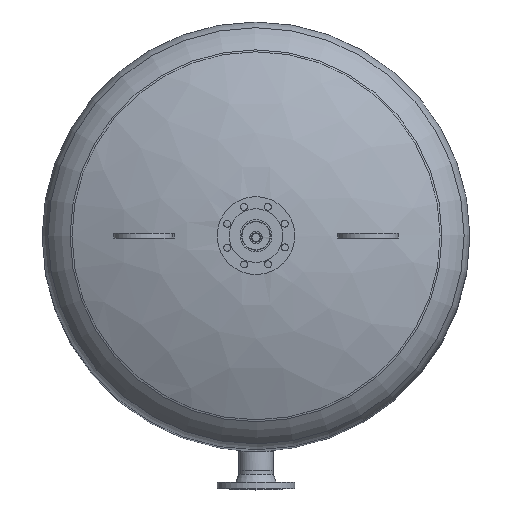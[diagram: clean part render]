
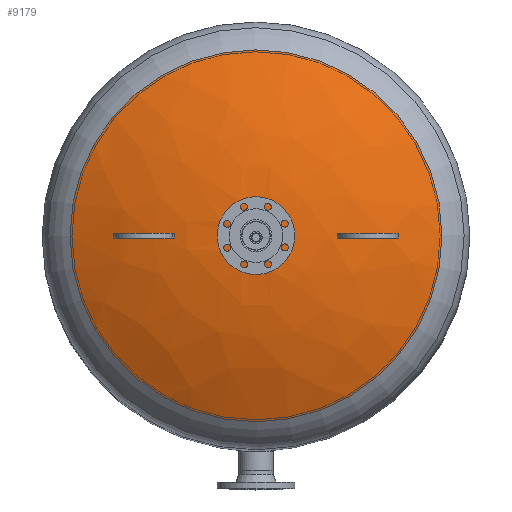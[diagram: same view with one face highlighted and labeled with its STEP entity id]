
A CAD part, top view. The second image highlights one B-rep face of the part: STEP entity #9179.
In plain terms, the highlighted free-form (B-spline) face has degree [2, 2] with [3, 9] control points.
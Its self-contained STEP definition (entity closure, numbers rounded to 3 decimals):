
#8478=CARTESIAN_POINT('',(40.,0.117,2252.332));
#8479=VERTEX_POINT('',#8478);
#9069=CARTESIAN_POINT('',(0.,0.,2252.332));
#9070=DIRECTION('',(0.,0.,-1.0));
#9071=DIRECTION('',(-1.,-0.003,0.));
#9072=AXIS2_PLACEMENT_3D('',#9069,#9070,#9071);
#9073=CIRCLE('',#9072,40.0);
#9074=EDGE_CURVE('',#8479,#8479,#9073,.T.);
#9123=CARTESIAN_POINT('',(478.21,1.396,2145.409));
#9124=VERTEX_POINT('',#9123);
#9125=CARTESIAN_POINT('',(0.,0.,2145.409));
#9126=DIRECTION('',(0.,0.,1.0));
#9127=DIRECTION('',(1.,0.003,0.));
#9128=AXIS2_PLACEMENT_3D('',#9125,#9126,#9127);
#9129=CIRCLE('',#9128,478.212);
#9130=EDGE_CURVE('',#9124,#9124,#9129,.T.);
#9138=CARTESIAN_POINT('',(-1.396,478.21,2145.409));
#9139=CARTESIAN_POINT('',(-0.789,270.199,2244.338));
#9140=CARTESIAN_POINT('',(-0.117,40.,2252.332));
#9141=CARTESIAN_POINT('',(476.814,479.606,2145.409));
#9142=CARTESIAN_POINT('',(269.41,270.987,2244.338));
#9143=CARTESIAN_POINT('',(39.883,40.117,2252.332));
#9144=CARTESIAN_POINT('',(478.21,1.396,2145.409));
#9145=CARTESIAN_POINT('',(270.199,0.789,2244.338));
#9146=CARTESIAN_POINT('',(40.,0.117,2252.332));
#9147=CARTESIAN_POINT('',(479.606,-476.814,2145.409));
#9148=CARTESIAN_POINT('',(270.987,-269.41,2244.338));
#9149=CARTESIAN_POINT('',(40.117,-39.883,2252.332));
#9150=CARTESIAN_POINT('',(1.396,-478.21,2145.409));
#9151=CARTESIAN_POINT('',(0.789,-270.199,2244.338));
#9152=CARTESIAN_POINT('',(0.117,-40.,2252.332));
#9153=CARTESIAN_POINT('',(-476.814,-479.606,2145.409));
#9154=CARTESIAN_POINT('',(-269.41,-270.987,2244.338));
#9155=CARTESIAN_POINT('',(-39.883,-40.117,2252.332));
#9156=CARTESIAN_POINT('',(-478.21,-1.396,2145.409));
#9157=CARTESIAN_POINT('',(-270.199,-0.789,2244.338));
#9158=CARTESIAN_POINT('',(-40.,-0.117,2252.332));
#9159=CARTESIAN_POINT('',(-479.606,476.814,2145.409));
#9160=CARTESIAN_POINT('',(-270.987,269.41,2244.338));
#9161=CARTESIAN_POINT('',(-40.117,39.883,2252.332));
#9162=CARTESIAN_POINT('',(-1.396,478.21,2145.409));
#9163=CARTESIAN_POINT('',(-0.789,270.199,2244.338));
#9164=CARTESIAN_POINT('',(-0.117,40.,2252.332));
#9172=(BOUNDED_SURFACE()B_SPLINE_SURFACE(2,2,((#9138,#9141,#9144,#9147,#9150,#9153,#9156,#9159,#9162),(#9139,#9142,#9145,#9148,#9151,#9154,#9157,#9160,#9163),(#9140,#9143,#9146,#9149,#9152,#9155,#9158,#9161,#9164)),.UNSPECIFIED.,.F.,.T.,.U.)B_SPLINE_SURFACE_WITH_KNOTS((3,3),(3,2,2,2,3),(1.127,1.536),(0.0,1.571,3.142,4.712,6.283),.UNSPECIFIED.)GEOMETRIC_REPRESENTATION_ITEM()RATIONAL_B_SPLINE_SURFACE(((1.0,0.707,1.0,0.707,1.0,0.707,1.0,0.707,1.0),(0.979,0.692,0.979,0.692,0.979,0.692,0.979,0.692,0.979),(1.0,0.707,1.0,0.707,1.0,0.707,1.0,0.707,1.0)))REPRESENTATION_ITEM('')SURFACE());
#9173=ORIENTED_EDGE('',*,*,#9074,.T.);
#9174=EDGE_LOOP('',(#9173));
#9175=FACE_OUTER_BOUND('',#9174,.T.);
#9176=ORIENTED_EDGE('',*,*,#9130,.T.);
#9177=EDGE_LOOP('',(#9176));
#9178=FACE_BOUND('',#9177,.T.);
#9179=ADVANCED_FACE('',(#9175,#9178),#9172,.T.);
